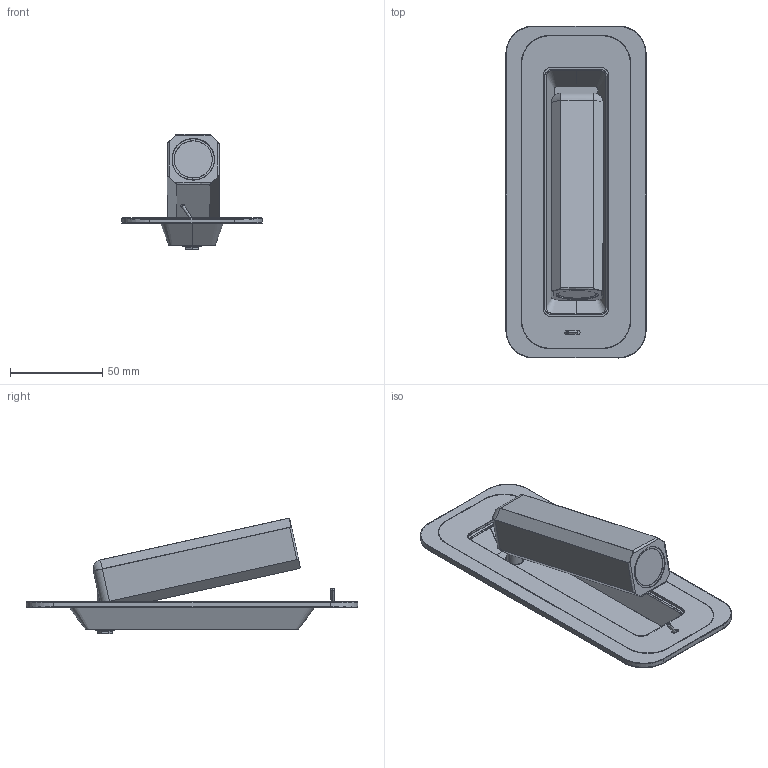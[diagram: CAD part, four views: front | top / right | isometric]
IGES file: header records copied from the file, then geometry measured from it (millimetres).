
Start section: SolidWorks IGES file using analytic representation for surfaces
Global section: file name: C:\Users\danielet\Desktop\ISMAIL\BOHEME-E3826-3D\BOHEME-E3826-3D.IGS; native system: SolidWorks 2018; preprocessor: SolidWorks 2018; author: danielet; date: 230310.092546; units: millimetre
Bounding box: 76 x 180 x 62.56 mm (x, y, z)
Surface area: 115362.1 mm2 (no closed solid volume)
Topology: 0 solids, 0 shells, 265 faces, 5657 edges, 5651 vertices
Faces by surface type: bspline 149, revolution 116
